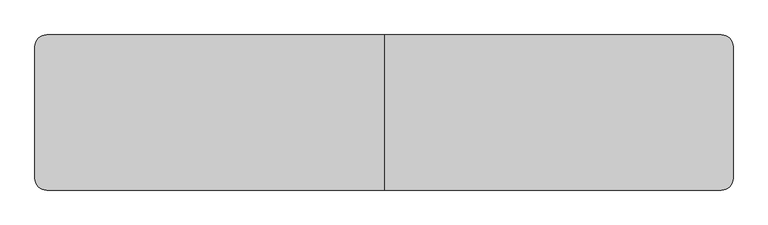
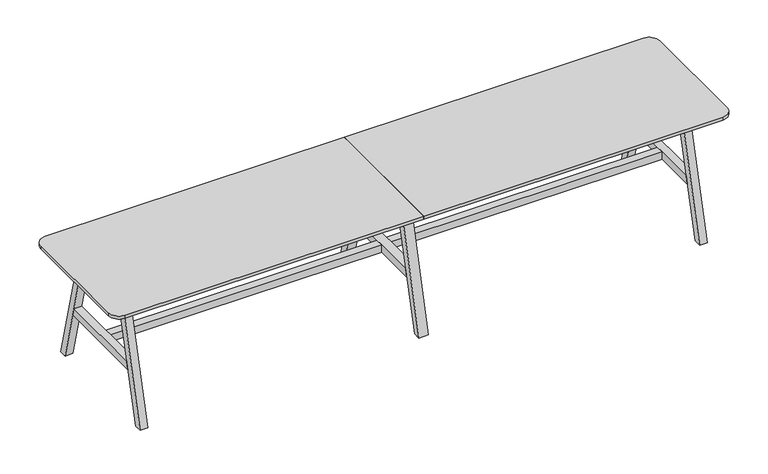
"""IFC4 building model written with IfcOpenShell, lengths in millimetres: furniture geometry, BDG_BossDesign_Tbls_AgentTables6Legs : AGE-DT-6L-3600-800-3D."""

from ifc_helpers import new_model, si_unit, point, frame, frame_2d, origin, place, context, project, spatial, polyline, circle_curve, trimmed, segment, composite_curve, outline, extrude, source, transform, mapped, element, save


def furniture_3188798d(model_context):
    return source(origin(), model_context, "Body", "SweptSolid", [
        extrude(outline(polyline([(400.0, 0.0), (354.9999949, 0.0), (185.5, 660.0), (230.5000051, 660.0), (400.0, 0.0)])), frame((-27.5, 0.0, 0.0), z_axis=(1.0, 0.0, 0.0), x_axis=(0.0, 1.0, 0.0)), (0.0, 0.0, 1.0), 55.0),
        extrude(outline(polyline([(-400.0, 0.0), (-230.5000051, 660.0), (-185.5, 660.0), (-354.9999949, 0.0), (-400.0, 0.0)])), frame((-27.5, 0.0, 0.0), z_axis=(1.0, 0.0, 0.0), x_axis=(0.0, 1.0, 0.0)), (0.0, 0.0, 1.0), 55.0),
        extrude(outline(polyline([(277.9545427, 300.0), (-277.9545427, 300.0), (-266.3977249, 345.0), (266.3977249, 345.0), (277.9545427, 300.0)])), frame((-27.5, 0.0, 0.0), z_axis=(1.0, 0.0, 0.0), x_axis=(0.0, 1.0, 0.0)), (0.0, 0.0, 1.0), 55.0),
        extrude(outline(composite_curve([segment(polyline([(0.0, 400.0), (0.0, -400.0), (-1740.0, -400.0)]), True, "CONTINUOUS"), segment(trimmed(circle_curve(frame_2d((-1740.0, -340.0)), 60.0), [point((-1740.0, -400.0))], [point((-1800.0, -340.0))], False, "CARTESIAN"), True, "CONTINUOUS"), segment(polyline([(-1800.0, -340.0), (-1800.0, 340.0)]), True, "CONTINUOUS"), segment(trimmed(circle_curve(frame_2d((-1740.0, 340.0)), 60.0), [point((-1800.0, 340.0))], [point((-1740.0, 400.0))], False, "CARTESIAN"), True, "CONTINUOUS"), segment(polyline([(-1740.0, 400.0), (0.0, 400.0)]), True, "CONTINUOUS")], self_intersect=False)), frame((0.0, 0.0, 722.0), z_axis=(0.0, 0.0, 1.0), x_axis=(1.0, 0.0, 0.0)), (0.0, 0.0, 1.0), 18.0),
        extrude(outline(polyline([(-266.3977249, 345.0), (266.3977249, 345.0), (277.9545427, 300.0), (-277.9545427, 300.0), (-266.3977249, 345.0)])), frame((1605.0, 0.0, 0.0), z_axis=(1.0, 0.0, 0.0), x_axis=(0.0, 1.0, 0.0)), (0.0, 0.0, 1.0), 45.0),
        extrude(outline(polyline([(400.0, 0.0), (354.9999949, 0.0), (185.5, 660.0), (230.5000051, 660.0), (400.0, 0.0)])), frame((-1650.0, 0.0, 0.0), z_axis=(1.0, 0.0, 0.0), x_axis=(0.0, 1.0, 0.0)), (0.0, 0.0, 1.0), 45.0),
        extrude(outline(polyline([(-400.0, 0.0), (-230.5000051, 660.0), (-185.5, 660.0), (-354.9999949, 0.0), (-400.0, 0.0)])), frame((-1650.0, 0.0, 0.0), z_axis=(1.0, 0.0, 0.0), x_axis=(0.0, 1.0, 0.0)), (0.0, 0.0, 1.0), 45.0),
        extrude(outline(polyline([(-266.3977249, 345.0), (266.3977249, 345.0), (277.9545427, 300.0), (-277.9545427, 300.0), (-266.3977249, 345.0)])), frame((-1650.0, 0.0, 0.0), z_axis=(1.0, 0.0, 0.0), x_axis=(0.0, 1.0, 0.0)), (0.0, 0.0, 1.0), 45.0),
        extrude(outline(polyline([(-226.6006165, 634.973938), (-204.2770691, 722.0), (-179.5, 722.0), (-201.8235474, 634.973938), (-226.6006165, 634.973938)])), frame((-1605.0, 0.0, 0.0), z_axis=(1.0, 0.0, 0.0), x_axis=(0.0, 1.0, 0.0)), (0.0, 0.0, 1.0), 3210.0),
        extrude(outline(polyline([(226.6006165, 634.973938), (201.8235474, 634.973938), (179.5, 722.0), (204.2770691, 722.0), (226.6006165, 634.973938)])), frame((-1605.0, 0.0, 0.0), z_axis=(1.0, 0.0, 0.0), x_axis=(0.0, 1.0, 0.0)), (0.0, 0.0, 1.0), 3210.0),
        extrude(outline(polyline([(399.7999878, 0.0), (354.7999827, 0.0), (185.5, 660.0), (230.5000051, 660.0), (399.7999878, 0.0)])), frame((1605.0, 0.0, 0.0), z_axis=(1.0, 0.0, 0.0), x_axis=(0.0, 1.0, 0.0)), (0.0, 0.0, 1.0), 45.0),
        extrude(outline(polyline([(-399.7999878, 0.0), (-230.5000051, 660.0), (-185.5, 660.0), (-354.7999827, 0.0), (-399.7999878, 0.0)])), frame((1605.0, 0.0, 0.0), z_axis=(1.0, 0.0, 0.0), x_axis=(0.0, 1.0, 0.0)), (0.0, 0.0, 1.0), 45.0),
        extrude(outline(polyline([(-27.5, 22.5000305), (-27.5, -22.5000305), (-1605.0, -22.5000305), (-1605.0, 22.5000305), (-27.5, 22.5000305)])), frame((0.0, 0.0, 300.0), z_axis=(0.0, 0.0, 1.0), x_axis=(1.0, 0.0, 0.0)), (0.0, 0.0, 1.0), 45.0),
        extrude(outline(polyline([(27.5, -22.5000305), (27.5, 22.5000305), (1605.0, 22.5000305), (1605.0, -22.5000305), (27.5, -22.5000305)])), frame((0.0, 0.0, 300.0), z_axis=(0.0, 0.0, 1.0), x_axis=(1.0, 0.0, 0.0)), (0.0, 0.0, 1.0), 45.0),
        extrude(outline(composite_curve([segment(trimmed(circle_curve(frame_2d((1740.0, 340.0)), 60.0), [point((1740.0, 400.0))], [point((1800.0, 340.0))], False, "CARTESIAN"), True, "CONTINUOUS"), segment(polyline([(1800.0, 340.0), (1800.0, -340.0)]), True, "CONTINUOUS"), segment(trimmed(circle_curve(frame_2d((1740.0, -340.0)), 60.0), [point((1800.0, -340.0))], [point((1740.0, -400.0))], False, "CARTESIAN"), True, "CONTINUOUS"), segment(polyline([(1740.0, -400.0), (0.0, -400.0), (0.0, 400.0), (1740.0, 400.0)]), True, "CONTINUOUS")], self_intersect=False)), frame((0.0, 0.0, 722.0), z_axis=(0.0, 0.0, 1.0), x_axis=(1.0, 0.0, 0.0)), (0.0, 0.0, 1.0), 18.0),
    ])


if __name__ == "__main__":
    model = new_model("IFC4")
    model_context = context("Model", 3, world=origin())
    ifc_project = project(units=[si_unit("LENGTHUNIT", "METRE", prefix="MILLI")], contexts=[model_context])
    site = spatial("IfcSite", under=ifc_project)
    building = spatial("IfcBuilding", under=site)
    placement = place(None, origin())
    furniture_shape = furniture_3188798d(model_context)
    element("IfcFurniture", 1, ObjectType="BDG_BossDesign_Tbls_AgentTables6Legs : AGE-DT-6L-3600-800-3D", at=placement, inside=building, context=model_context, shape_type="MappedRepresentation", body=[
        mapped(furniture_shape, transform((0.0, 0.0, 0.0), x_axis=(1.0, 0.0, 0.0), y_axis=(0.0, 1.0, 0.0), z_axis=(0.0, 0.0, 1.0))),
    ])
    save(model, "model.ifc")
